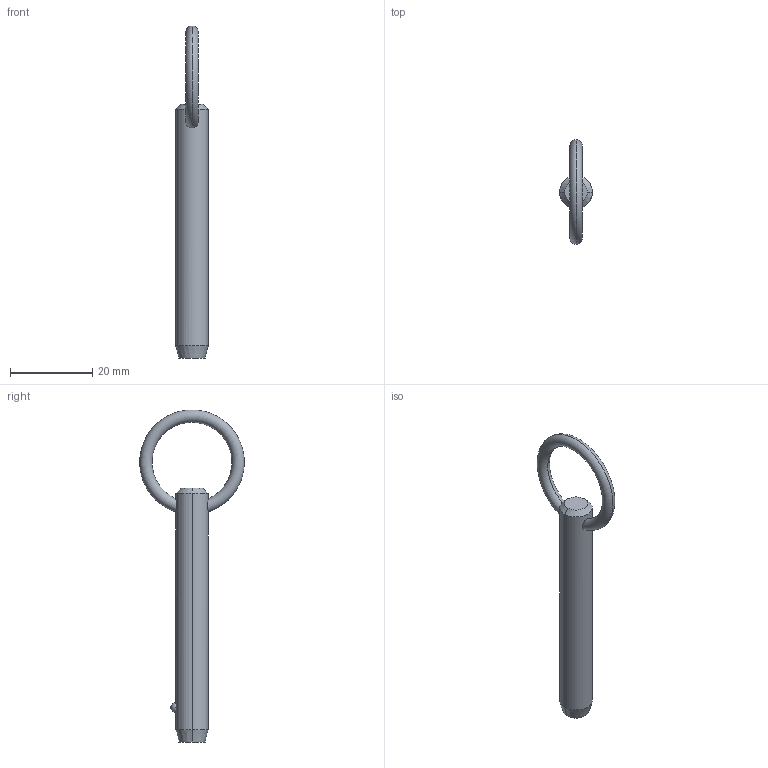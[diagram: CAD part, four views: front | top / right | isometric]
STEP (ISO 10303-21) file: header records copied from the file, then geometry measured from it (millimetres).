
FILE_DESCRIPTION (( 'STEP AP203' ), '1' );
FILE_NAME ('P1250.031-180.step', '2019-07-29T19:50:07', ( '' ), ( '' ), 'SwSTEP 2.0', 'SolidWorks 2017', '' );
FILE_SCHEMA (( 'CONFIG_CONTROL_DESIGN' ));
Length unit declared in the file: millimetre
Products named in the file (1): P1250.031-180
Bounding box: 7.93 x 25.36 x 80.6 mm (x, y, z)
Volume: 3441.4 mm3; surface area: 2169.3 mm2
Topology: 1 solids, 1 shells, 12 faces, 28 edges, 17 vertices
Faces by surface type: cone 4, torus 2, sphere 2, cylinder 2, plane 2
Entity records: 509 total; most frequent: CARTESIAN_POINT 176, DIRECTION 56, ORIENTED_EDGE 48, AXIS2_PLACEMENT_3D 25, EDGE_CURVE 24, VERTEX_POINT 15, EDGE_LOOP 15, FACE_OUTER_BOUND 12
